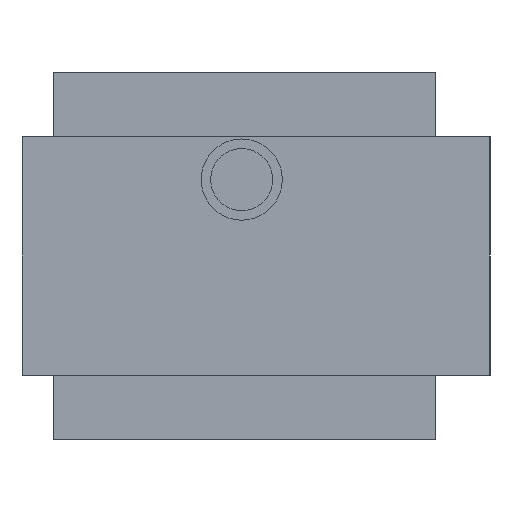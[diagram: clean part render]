
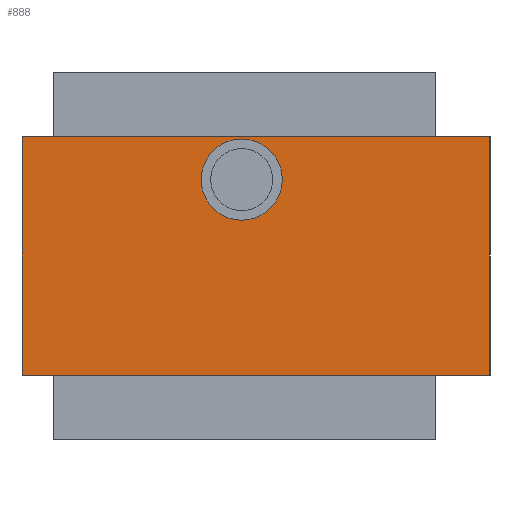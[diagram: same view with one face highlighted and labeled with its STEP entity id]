
A CAD part, left-side view. The second image highlights one B-rep face of the part: STEP entity #888.
In plain terms, the highlighted planar face has unit normal (-1, 0, 0).
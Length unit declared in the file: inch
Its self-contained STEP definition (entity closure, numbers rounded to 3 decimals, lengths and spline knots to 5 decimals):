
#9 = DIRECTION ( 'NONE',  ( 1., 0., 0. ) ) ;
#19 = CARTESIAN_POINT ( 'NONE',  ( 2.41507, 5.02, -0.25 ) ) ;
#38 = AXIS2_PLACEMENT_3D ( 'NONE', #50, #592, #584 ) ;
#43 = ORIENTED_EDGE ( 'NONE', *, *, #125, .F. ) ;
#45 = ORIENTED_EDGE ( 'NONE', *, *, #1009, .T. ) ;
#50 = CARTESIAN_POINT ( 'NONE',  ( 2.41507, 4.56, 0.16 ) ) ;
#72 = LINE ( 'NONE', #102, #662 ) ;
#82 = VECTOR ( 'NONE', #920, 39.37008 ) ;
#84 = VECTOR ( 'NONE', #787, 39.37008 ) ;
#102 = CARTESIAN_POINT ( 'NONE',  ( 2.41507, 5.02, 0.25 ) ) ;
#116 = EDGE_CURVE ( 'NONE', #306, #1004, #776, .T. ) ;
#125 = EDGE_CURVE ( 'NONE', #519, #589, #566, .T. ) ;
#139 = ORIENTED_EDGE ( 'NONE', *, *, #704, .F. ) ;
#215 = CARTESIAN_POINT ( 'NONE',  ( 2.41507, 4.04, -0.25 ) ) ;
#224 = CARTESIAN_POINT ( 'NONE',  ( 2.41507, 4.04, 0.25 ) ) ;
#232 = CARTESIAN_POINT ( 'NONE',  ( 2.41507, 4.56, 0.245 ) ) ;
#241 = LINE ( 'NONE', #224, #82 ) ;
#304 = EDGE_LOOP ( 'NONE', ( #139, #43 ) ) ;
#306 = VERTEX_POINT ( 'NONE', #871 ) ;
#333 = AXIS2_PLACEMENT_3D ( 'NONE', #689, #775, #926 ) ;
#387 = EDGE_LOOP ( 'NONE', ( #45, #784, #764, #624 ) ) ;
#427 = VERTEX_POINT ( 'NONE', #19 ) ;
#440 = CARTESIAN_POINT ( 'NONE',  ( 2.41507, 4.04, 0.25 ) ) ;
#494 = EDGE_CURVE ( 'NONE', #1004, #657, #241, .T. ) ;
#519 = VERTEX_POINT ( 'NONE', #232 ) ;
#557 = FACE_OUTER_BOUND ( 'NONE', #387, .T. ) ;
#566 = CIRCLE ( 'NONE', #333, 0.085 ) ;
#584 = DIRECTION ( 'NONE',  ( 0., 0., -1. ) ) ;
#589 = VERTEX_POINT ( 'NONE', #754 ) ;
#592 = DIRECTION ( 'NONE',  ( -1., 0., 0. ) ) ;
#624 = ORIENTED_EDGE ( 'NONE', *, *, #804, .T. ) ;
#641 = CARTESIAN_POINT ( 'NONE',  ( 2.41507, 5.02, 0.25 ) ) ;
#657 = VERTEX_POINT ( 'NONE', #215 ) ;
#662 = VECTOR ( 'NONE', #975, 39.37008 ) ;
#680 = PLANE ( 'NONE',  #887 ) ;
#689 = CARTESIAN_POINT ( 'NONE',  ( 2.41507, 4.56, 0.16 ) ) ;
#704 = EDGE_CURVE ( 'NONE', #589, #519, #825, .T. ) ;
#754 = CARTESIAN_POINT ( 'NONE',  ( 2.41507, 4.56, 0.075 ) ) ;
#763 = CARTESIAN_POINT ( 'NONE',  ( 2.41507, 5.02, -0.25 ) ) ;
#764 = ORIENTED_EDGE ( 'NONE', *, *, #116, .F. ) ;
#775 = DIRECTION ( 'NONE',  ( -1., 0., 0. ) ) ;
#776 = LINE ( 'NONE', #1029, #988 ) ;
#784 = ORIENTED_EDGE ( 'NONE', *, *, #494, .F. ) ;
#787 = DIRECTION ( 'NONE',  ( 0., -1., 0. ) ) ;
#804 = EDGE_CURVE ( 'NONE', #306, #427, #72, .T. ) ;
#825 = CIRCLE ( 'NONE', #38, 0.085 ) ;
#836 = DIRECTION ( 'NONE',  ( 0., -1., 0. ) ) ;
#871 = CARTESIAN_POINT ( 'NONE',  ( 2.41507, 5.02, 0.25 ) ) ;
#887 = AXIS2_PLACEMENT_3D ( 'NONE', #641, #9, #961 ) ;
#888 = ADVANCED_FACE ( 'NONE', ( #557, #972 ), #680, .F. ) ;
#907 = LINE ( 'NONE', #763, #84 ) ;
#920 = DIRECTION ( 'NONE',  ( 0., 0., -1. ) ) ;
#926 = DIRECTION ( 'NONE',  ( 0., 0., -1. ) ) ;
#961 = DIRECTION ( 'NONE',  ( 0., 0., -1. ) ) ;
#972 = FACE_BOUND ( 'NONE', #304, .T. ) ;
#975 = DIRECTION ( 'NONE',  ( 0., 0., -1. ) ) ;
#988 = VECTOR ( 'NONE', #836, 39.37008 ) ;
#1004 = VERTEX_POINT ( 'NONE', #440 ) ;
#1009 = EDGE_CURVE ( 'NONE', #427, #657, #907, .T. ) ;
#1029 = CARTESIAN_POINT ( 'NONE',  ( 2.41507, 5.02, 0.25 ) ) ;
